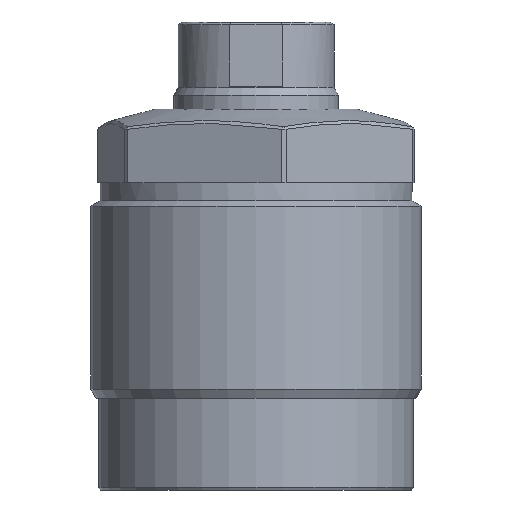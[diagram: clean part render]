
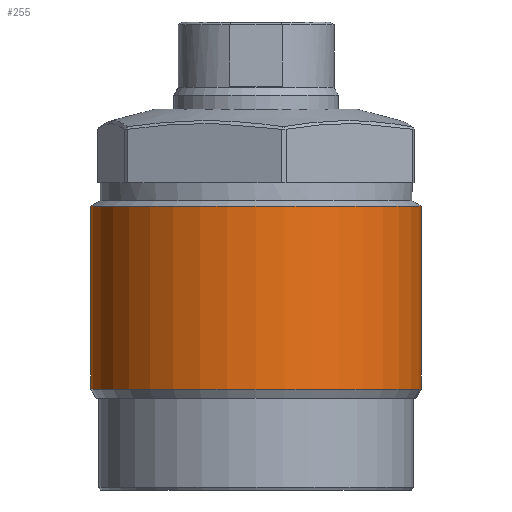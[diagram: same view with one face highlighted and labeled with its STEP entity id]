
A CAD part, front view. The second image highlights one B-rep face of the part: STEP entity #255.
In plain terms, the highlighted cylindrical face has radius 18 mm (diameter 36 mm), a partial arc.
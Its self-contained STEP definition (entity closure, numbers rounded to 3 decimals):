
#85 = CARTESIAN_POINT ( 'NONE',  ( -18., 0., 11. ) ) ;
#246 = AXIS2_PLACEMENT_3D ( 'NONE', #3155, #436, #3486 ) ;
#255 = ADVANCED_FACE ( 'NONE', ( #2545 ), #1234, .T. ) ;
#314 = CARTESIAN_POINT ( 'NONE',  ( 18., 0., 30.923 ) ) ;
#436 = DIRECTION ( 'NONE',  ( 0., 0., 1. ) ) ;
#465 = EDGE_CURVE ( 'NONE', #1778, #1843, #2010, .T. ) ;
#519 = CIRCLE ( 'NONE', #1036, 18. ) ;
#526 = DIRECTION ( 'NONE',  ( 0., 0., -1. ) ) ;
#565 = CARTESIAN_POINT ( 'NONE',  ( 18., 0., 33.5 ) ) ;
#578 = VERTEX_POINT ( 'NONE', #1518 ) ;
#776 = VERTEX_POINT ( 'NONE', #314 ) ;
#805 = VECTOR ( 'NONE', #1653, 1000. ) ;
#813 = AXIS2_PLACEMENT_3D ( 'NONE', #3089, #1436, #2277 ) ;
#949 = EDGE_LOOP ( 'NONE', ( #1516, #2822, #1501, #2308 ) ) ;
#1036 = AXIS2_PLACEMENT_3D ( 'NONE', #3231, #3164, #1866 ) ;
#1064 = LINE ( 'NONE', #2097, #3428 ) ;
#1234 = CYLINDRICAL_SURFACE ( 'NONE', #813, 18. ) ;
#1436 = DIRECTION ( 'NONE',  ( 0., 0., -1. ) ) ;
#1501 = ORIENTED_EDGE ( 'NONE', *, *, #1596, .T. ) ;
#1516 = ORIENTED_EDGE ( 'NONE', *, *, #1769, .F. ) ;
#1518 = CARTESIAN_POINT ( 'NONE',  ( -18., 0., 30.923 ) ) ;
#1596 = EDGE_CURVE ( 'NONE', #578, #1778, #1064, .T. ) ;
#1653 = DIRECTION ( 'NONE',  ( 0., 0., -1. ) ) ;
#1689 = LINE ( 'NONE', #565, #805 ) ;
#1769 = EDGE_CURVE ( 'NONE', #776, #1843, #1689, .T. ) ;
#1778 = VERTEX_POINT ( 'NONE', #85 ) ;
#1843 = VERTEX_POINT ( 'NONE', #2538 ) ;
#1866 = DIRECTION ( 'NONE',  ( -1., 0., 0. ) ) ;
#2010 = CIRCLE ( 'NONE', #246, 18. ) ;
#2049 = EDGE_CURVE ( 'NONE', #776, #578, #519, .T. ) ;
#2097 = CARTESIAN_POINT ( 'NONE',  ( -18., 0., 33.5 ) ) ;
#2277 = DIRECTION ( 'NONE',  ( -1., 0., 0. ) ) ;
#2308 = ORIENTED_EDGE ( 'NONE', *, *, #465, .T. ) ;
#2538 = CARTESIAN_POINT ( 'NONE',  ( 18., 0., 11. ) ) ;
#2545 = FACE_OUTER_BOUND ( 'NONE', #949, .T. ) ;
#2822 = ORIENTED_EDGE ( 'NONE', *, *, #2049, .T. ) ;
#3089 = CARTESIAN_POINT ( 'NONE',  ( 0., 0., 33.5 ) ) ;
#3155 = CARTESIAN_POINT ( 'NONE',  ( 0., 0., 11. ) ) ;
#3164 = DIRECTION ( 'NONE',  ( 0., 0., -1. ) ) ;
#3231 = CARTESIAN_POINT ( 'NONE',  ( 0., 0., 30.923 ) ) ;
#3428 = VECTOR ( 'NONE', #526, 1000. ) ;
#3486 = DIRECTION ( 'NONE',  ( -1., 0., 0. ) ) ;
